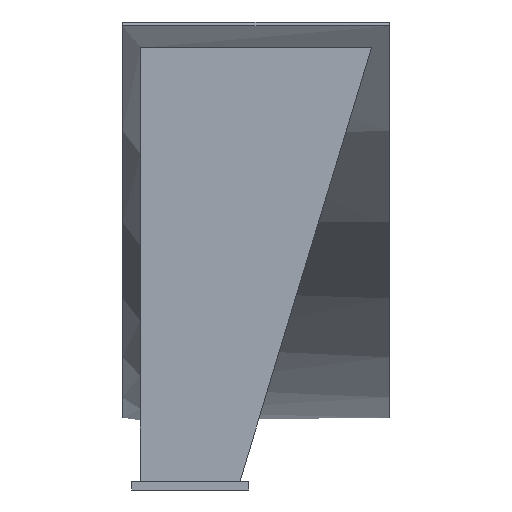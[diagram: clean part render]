
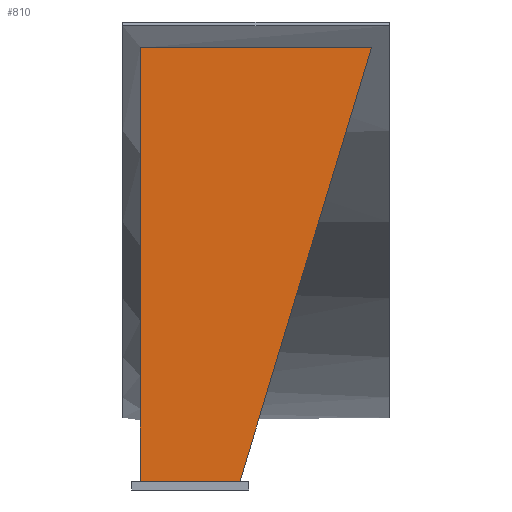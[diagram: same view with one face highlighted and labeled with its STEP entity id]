
A CAD part, front view. The second image highlights one B-rep face of the part: STEP entity #810.
In plain terms, the highlighted planar face has unit normal (0, -1, 0).
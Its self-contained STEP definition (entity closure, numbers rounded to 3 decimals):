
#75=FACE_OUTER_BOUND('',#117,.T.);
#117=EDGE_LOOP('',(#622,#623,#624,#625));
#196=LINE('',#1272,#290);
#200=LINE('',#1280,#294);
#201=LINE('',#1282,#295);
#202=LINE('',#1283,#296);
#290=VECTOR('',#1042,10.);
#294=VECTOR('',#1048,10.);
#295=VECTOR('',#1049,10.);
#296=VECTOR('',#1050,10.);
#380=VERTEX_POINT('',#1270);
#381=VERTEX_POINT('',#1271);
#384=VERTEX_POINT('',#1279);
#385=VERTEX_POINT('',#1281);
#472=EDGE_CURVE('',#380,#381,#196,.T.);
#476=EDGE_CURVE('',#384,#381,#200,.T.);
#477=EDGE_CURVE('',#385,#384,#201,.T.);
#478=EDGE_CURVE('',#380,#385,#202,.T.);
#622=ORIENTED_EDGE('',*,*,#472,.T.);
#623=ORIENTED_EDGE('',*,*,#476,.F.);
#624=ORIENTED_EDGE('',*,*,#477,.F.);
#625=ORIENTED_EDGE('',*,*,#478,.F.);
#770=PLANE('',#888);
#810=ADVANCED_FACE('',(#75),#770,.T.);
#888=AXIS2_PLACEMENT_3D('',#1278,#1046,#1047);
#1042=DIRECTION('',(0.29,0.,0.957));
#1046=DIRECTION('center_axis',(0.,-1.,0.));
#1047=DIRECTION('ref_axis',(0.,0.,
-1.));
#1048=DIRECTION('',(1.,0.,0.));
#1049=DIRECTION('',(0.,0.,1.));
#1050=DIRECTION('',(-1.,0.,0.));
#1270=CARTESIAN_POINT('',(140.,-1927.,25.));
#1271=CARTESIAN_POINT('',(510.,-1927.,1245.222));
#1272=CARTESIAN_POINT('',(297.634,-1927.,544.861));
#1278=CARTESIAN_POINT('Origin',(-140.,-1927.,1245.222));
#1279=CARTESIAN_POINT('',(-140.,-1927.,1245.222));
#1280=CARTESIAN_POINT('',(-140.,-1927.,1245.222));
#1281=CARTESIAN_POINT('',(-140.,-1927.,25.));
#1282=CARTESIAN_POINT('',(-140.,-1927.,25.));
#1283=CARTESIAN_POINT('',(-70.,-1927.,25.));
